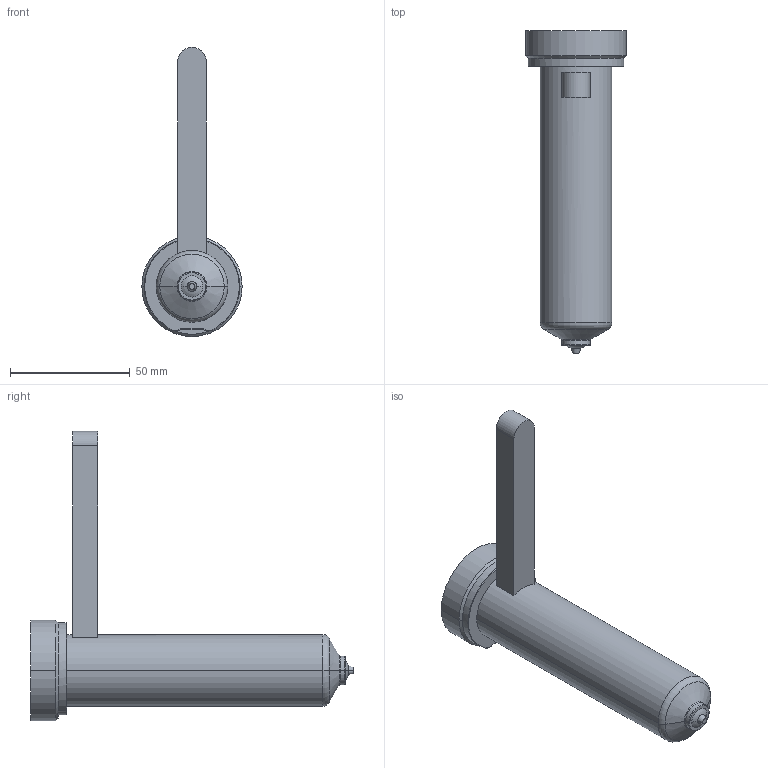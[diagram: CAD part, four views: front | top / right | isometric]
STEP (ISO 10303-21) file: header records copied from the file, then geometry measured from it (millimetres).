
FILE_DESCRIPTION((''),'2;1');
FILE_NAME('EO08_VG-BL_WR_120_COT','2024-02-19T13:07:34',('sundharh'),(''),'CREO PARAMETRIC BY PTC INC, 2023154','CREO PARAMETRIC BY PTC INC, 2023154','');
FILE_SCHEMA(('CONFIG_CONTROL_DESIGN'));
Length unit declared in the file: millimetre
Products named in the file (1): EO08_VG-BL_WR_120_COT
Bounding box: 42 x 135 x 121 mm (x, y, z)
Volume: 110066 mm3; surface area: 18854.6 mm2
Topology: 1 solids, 1 shells, 38 faces, 81 edges, 48 vertices
Faces by surface type: cylinder 11, plane 10, torus 9, cone 6, sphere 2
Entity records: 1135 total; most frequent: CARTESIAN_POINT 247, DIRECTION 199, ORIENTED_EDGE 162, AXIS2_PLACEMENT_3D 86, EDGE_CURVE 81, VERTEX_POINT 48, CIRCLE 48, EDGE_LOOP 41
